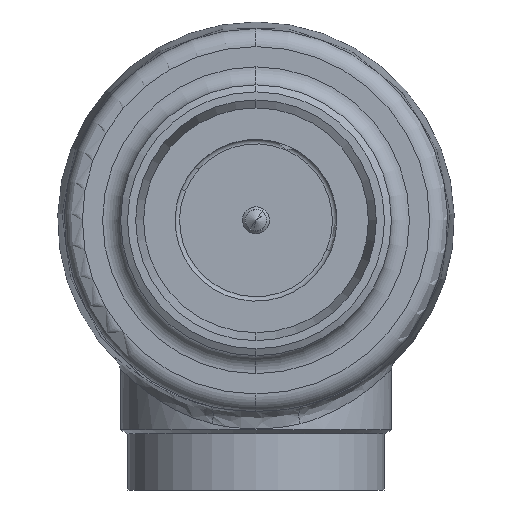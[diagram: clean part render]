
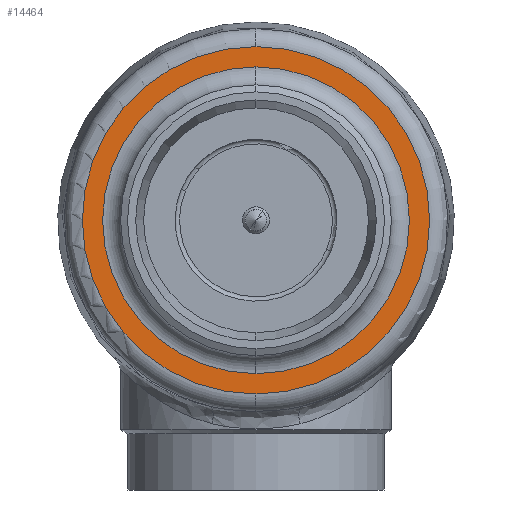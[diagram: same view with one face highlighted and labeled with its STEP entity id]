
A CAD part, front view. The second image highlights one B-rep face of the part: STEP entity #14464.
In plain terms, the highlighted planar face has unit normal (0, -1, 0).
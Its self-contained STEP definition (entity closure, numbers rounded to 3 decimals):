
#361 = CARTESIAN_POINT ( 'NONE',  ( 0., -145., 77.274 ) ) ;
#16977 = FACE_BOUND ( 'NONE', #14228, .T. ) ;
#16978 = FACE_OUTER_BOUND ( 'NONE', #12488, .T. ) ;
#16979 = PLANE ( 'NONE',  #16980 ) ;
#16980 = AXIS2_PLACEMENT_3D ( 'NONE', #16981, #16982, #16983 ) ;
#16981 = CARTESIAN_POINT ( 'NONE',  ( 0., -145., 0. ) ) ;
#16982 = DIRECTION ( 'NONE',  ( 0., -1., 0. ) ) ;
#16983 = DIRECTION ( 'NONE',  ( 0., 0., -1. ) ) ;
#2549 = CIRCLE ( 'NONE', #2550, 77.274 ) ;
#2550 = AXIS2_PLACEMENT_3D ( 'NONE', #2551, #2552, #2553 ) ;
#2551 = CARTESIAN_POINT ( 'NONE',  ( 0., -145., 0. ) ) ;
#2552 = DIRECTION ( 'NONE',  ( 0., -1., 0. ) ) ;
#2553 = DIRECTION ( 'NONE',  ( 0., 0., -1. ) ) ;
#3049 = EDGE_CURVE ( 'NONE', #6828, #5765, #2549, .T. ) ;
#3611 = VERTEX_POINT ( 'NONE', #4610 ) ;
#3825 = EDGE_CURVE ( 'NONE', #3611, #4832, #4915, .T. ) ;
#4610 = CARTESIAN_POINT ( 'NONE',  ( 0., -145., -68.25 ) ) ;
#4832 = VERTEX_POINT ( 'NONE', #9927 ) ;
#4915 = CIRCLE ( 'NONE', #4916, 68.25 ) ;
#4916 = AXIS2_PLACEMENT_3D ( 'NONE', #4917, #4918, #4919 ) ;
#4917 = CARTESIAN_POINT ( 'NONE',  ( 0., -145., 0. ) ) ;
#4918 = DIRECTION ( 'NONE',  ( 0., 1., 0. ) ) ;
#4919 = DIRECTION ( 'NONE',  ( 0., 0., -1. ) ) ;
#5765 = VERTEX_POINT ( 'NONE', #10458 ) ;
#5979 = EDGE_CURVE ( 'NONE', #5765, #6828, #14800, .T. ) ;
#6828 = VERTEX_POINT ( 'NONE', #361 ) ;
#8079 = CIRCLE ( 'NONE', #8082, 68.25 ) ;
#8082 = AXIS2_PLACEMENT_3D ( 'NONE', #8083, #8084, #8085 ) ;
#8083 = CARTESIAN_POINT ( 'NONE',  ( 0., -145., 0. ) ) ;
#8084 = DIRECTION ( 'NONE',  ( 0., 1., 0. ) ) ;
#8085 = DIRECTION ( 'NONE',  ( 0., 0., -1. ) ) ;
#9927 = CARTESIAN_POINT ( 'NONE',  ( 0., -145., 68.25 ) ) ;
#10458 = CARTESIAN_POINT ( 'NONE',  ( 0., -145., -77.274 ) ) ;
#11496 = ORIENTED_EDGE ( 'NONE', *, *, #3049, .T. ) ;
#11993 = ORIENTED_EDGE ( 'NONE', *, *, #5979, .T. ) ;
#12488 = EDGE_LOOP ( 'NONE', ( #11993, #11496 ) ) ;
#12719 = EDGE_CURVE ( 'NONE', #4832, #3611, #8079, .T. ) ;
#13071 = ORIENTED_EDGE ( 'NONE', *, *, #12719, .T. ) ;
#13566 = ORIENTED_EDGE ( 'NONE', *, *, #3825, .T. ) ;
#14228 = EDGE_LOOP ( 'NONE', ( #13566, #13071 ) ) ;
#14464 = ADVANCED_FACE ( 'NONE', ( #16977, #16978 ), #16979, .T. ) ;
#14800 = CIRCLE ( 'NONE', #14801, 77.274 ) ;
#14801 = AXIS2_PLACEMENT_3D ( 'NONE', #14802, #14803, #14804 ) ;
#14802 = CARTESIAN_POINT ( 'NONE',  ( 0., -145., 0. ) ) ;
#14803 = DIRECTION ( 'NONE',  ( 0., -1., 0. ) ) ;
#14804 = DIRECTION ( 'NONE',  ( 0., 0., -1. ) ) ;
